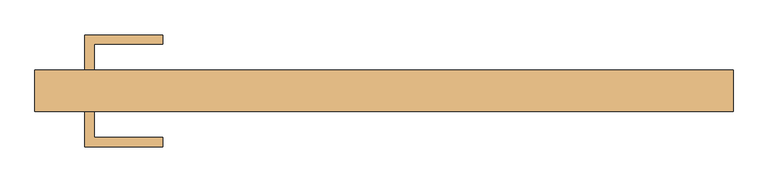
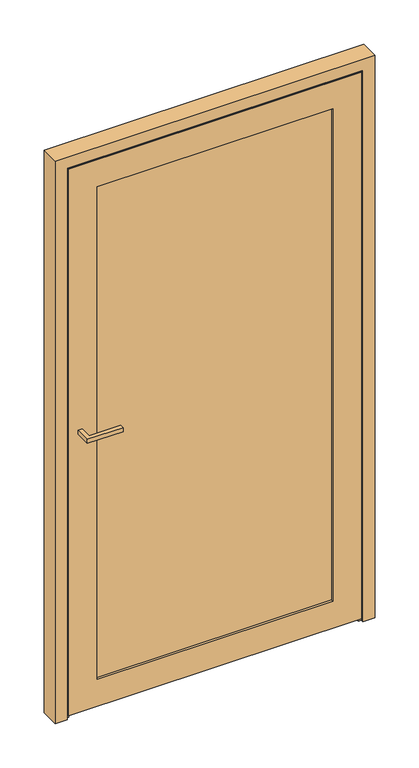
"""IFC4 building model written with IfcOpenShell, lengths in millimetres: door geometry, Reynaers_CS 77_Door_Miter_Outward Opening_Single Vent : Reynaers_CS 77_Door_Miter_Outward Opening_Single Vent."""

from ifc_helpers import new_model, si_unit, frame, origin, place, context, project, spatial, polyline, outline, extrude, faceted_brep, source, transform, mapped, element, save


def door_d3311b6a(model_context):
    return source(origin(), model_context, "Body", "SolidModel", [
        extrude(outline(polyline([(-488.5, -80.0), (-473.5, -80.0), (-473.5, -122.5), (-361.0, -122.5), (-361.0, -137.5), (-488.5, -137.5), (-488.5, -80.0)])), frame((0.0, 0.0, 1062.5), z_axis=(0.0, 0.0, 1.0), x_axis=(1.0, 0.0, 0.0)), (0.0, 0.0, 1.0), 15.0),
        extrude(outline(polyline([(-488.5, -12.0), (-488.5, 45.5), (-361.0, 45.5), (-361.0, 30.5), (-473.5, 30.5), (-473.5, -12.0), (-488.5, -12.0)])), frame((0.0, 0.0, 1062.5), z_axis=(0.0, 0.0, 1.0), x_axis=(1.0, 0.0, 0.0)), (0.0, 0.0, 1.0), 15.0),
        extrude(outline(polyline([(439.0, -45.0), (439.0, -72.0), (-439.0, -72.0), (-439.0, -45.0), (439.0, -45.0)])), frame((0.0, 0.0, 93.5), z_axis=(0.0, 0.0, 1.0), x_axis=(1.0, 0.0, 0.0)), (0.0, 0.0, 1.0), 1895.5),
        faceted_brep([(445.0, -12.0, 1995.0), (445.0, -12.0, 91.0), (445.0, -72.0, 91.0), (445.0, -72.0, 1995.0), (-445.0, -72.0, 1995.0), (-445.0, -72.0, 91.0), (420.0, -72.0, 1970.0), (-420.0, -72.0, 1970.0), (-420.0, -72.0, 116.0), (420.0, -72.0, 116.0), (-445.0, -12.0, 91.0), (-496.0, -12.0, 2046.0), (496.0, -12.0, 2046.0), (496.0, -12.0, 40.0), (-496.0, -12.0, 40.0), (-445.0, -12.0, 1995.0), (496.0, -21.8, 2046.0), (496.0, -21.8, 40.0), (-496.0, -21.8, 40.0), (-507.0, -21.8, 2057.0), (507.0, -21.8, 2057.0), (507.0, -21.8, 29.0), (-507.0, -21.8, 29.0), (-496.0, -21.8, 2046.0), (-507.0, -76.2, 29.0), (-507.0, -76.2, 2057.0), (507.0, -76.2, 29.0), (507.0, -76.2, 2057.0), (-522.0, -76.2, 2072.0), (522.0, -76.2, 2072.0), (522.0, -76.2, 14.0), (-522.0, -76.2, 14.0), (522.0, -80.0, 2072.0), (522.0, -80.0, 14.0), (-522.0, -80.0, 14.0), (-522.0, -80.0, 2072.0), (-420.0, -80.0, 1970.0), (420.0, -80.0, 1970.0), (420.0, -80.0, 116.0), (-420.0, -80.0, 116.0)], [[[0, 1, 2, 3]], [[4, 3, 2, 5], [6, 7, 8, 9]], [[1, 10, 5, 2]], [[11, 12, 13, 14], [0, 15, 10, 1]], [[16, 17, 13, 12]], [[17, 18, 14, 13]], [[19, 20, 21, 22], [16, 23, 18, 17]], [[10, 15, 4, 5]], [[18, 23, 11, 14]], [[24, 25, 19, 22]], [[26, 24, 22, 21]], [[27, 26, 21, 20]], [[28, 29, 30, 31], [27, 25, 24, 26]], [[32, 33, 30, 29]], [[33, 34, 31, 30]], [[32, 35, 34, 33], [36, 37, 38, 39]], [[6, 9, 38, 37]], [[9, 8, 39, 38]], [[34, 35, 28, 31]], [[8, 7, 36, 39]], [[15, 0, 3, 4]], [[23, 16, 12, 11]], [[25, 27, 20, 19]], [[35, 32, 29, 28]], [[7, 6, 37, 36]]]),
        faceted_brep([(420.0, -12.0, 1970.0), (420.0, -12.0, 116.0), (420.0, -45.0, 116.0), (420.0, -45.0, 1970.0), (444.0, -45.0, 1994.0), (-444.0, -45.0, 1994.0), (-444.0, -45.0, 92.0), (444.0, -45.0, 92.0), (-420.0, -45.0, 1970.0), (-420.0, -45.0, 116.0), (-420.0, -12.0, 116.0), (-444.0, -12.0, 1994.0), (444.0, -12.0, 1994.0), (444.0, -12.0, 92.0), (-444.0, -12.0, 92.0), (-420.0, -12.0, 1970.0)], [[[0, 1, 2, 3]], [[4, 5, 6, 7], [8, 3, 2, 9]], [[1, 10, 9, 2]], [[11, 12, 13, 14], [0, 15, 10, 1]], [[4, 7, 13, 12]], [[7, 6, 14, 13]], [[10, 15, 8, 9]], [[6, 5, 11, 14]], [[15, 0, 3, 8]], [[5, 4, 12, 11]]]),
        faceted_brep([(-528.0, -70.2, 0.0), (-528.0, -80.0, 0.0), (-570.0, -80.0, 0.0), (-570.0, -12.0, 0.0), (-502.0, -12.0, 0.0), (-502.0, -15.8, 0.0), (-517.0, -15.8, 0.0), (-517.0, -70.2, 0.0), (-517.0, -70.2, 2067.0), (517.0, -70.2, 2067.0), (517.0, -70.2, 0.0), (528.0, -70.2, 0.0), (528.0, -70.2, 2078.0), (-528.0, -70.2, 2078.0), (-517.0, -15.8, 2067.0), (-502.0, -15.8, 2052.0), (502.0, -15.8, 2052.0), (502.0, -15.8, 0.0), (517.0, -15.8, 0.0), (517.0, -15.8, 2067.0), (-502.0, -12.0, 2052.0), (-570.0, -12.0, 2120.0), (570.0, -12.0, 2120.0), (570.0, -12.0, 0.0), (502.0, -12.0, 0.0), (502.0, -12.0, 2052.0), (-570.0, -80.0, 2120.0), (-528.0, -80.0, 2078.0), (528.0, -80.0, 2078.0), (528.0, -80.0, 0.0), (570.0, -80.0, 0.0), (570.0, -80.0, 2120.0)], [[[0, 1, 2, 3, 4, 5, 6, 7]], [[7, 8, 9, 10, 11, 12, 13, 0]], [[6, 14, 8, 7]], [[5, 15, 16, 17, 18, 19, 14, 6]], [[4, 20, 15, 5]], [[3, 21, 22, 23, 24, 25, 20, 4]], [[2, 26, 21, 3]], [[1, 27, 28, 29, 30, 31, 26, 2]], [[0, 13, 27, 1]], [[12, 11, 29, 28]], [[11, 10, 18, 17, 24, 23, 30, 29]], [[19, 18, 10, 9]], [[31, 30, 23, 22]], [[25, 24, 17, 16]], [[26, 31, 22, 21]], [[13, 12, 28, 27]], [[14, 19, 9, 8]], [[20, 25, 16, 15]]]),
        extrude(outline(polyline([(-570.0, -30.0), (570.0, -30.0), (570.0, -45.0), (-570.0, -45.0), (-570.0, -30.0)])), frame((0.0, 0.0, 1.0), z_axis=(0.0, 0.0, 1.0), x_axis=(1.0, 0.0, 0.0)), (0.0, 0.0, 1.0), 28.0),
        extrude(outline(polyline([(528.0, -15.8), (-528.0, -15.8), (-528.0, -12.0), (528.0, -12.0), (528.0, -15.8)])), frame((0.0, 0.0, 14.0), z_axis=(0.0, 0.0, 1.0), x_axis=(1.0, 0.0, 0.0)), (0.0, 0.0, 1.0), 26.0),
    ])


if __name__ == "__main__":
    model = new_model("IFC4")
    model_context = context("Model", 3, world=origin())
    ifc_project = project(units=[si_unit("LENGTHUNIT", "METRE", prefix="MILLI")], contexts=[model_context])
    site = spatial("IfcSite", under=ifc_project)
    building = spatial("IfcBuilding", under=site)
    placement = place(None, origin())
    door_shape = door_d3311b6a(model_context)
    element("IfcDoor", 1, ObjectType="Reynaers_CS 77_Door_Miter_Outward Opening_Single Vent : Reynaers_CS 77_Door_Miter_Outward Opening_Single Vent", at=placement, inside=building, context=model_context, shape_type="MappedRepresentation", body=[
        mapped(door_shape, transform((0.0, 0.0, 0.0), x_axis=(1.0, 0.0, 0.0), y_axis=(0.0, 1.0, 0.0), z_axis=(0.0, 0.0, 1.0))),
    ])
    save(model, "model.ifc")
